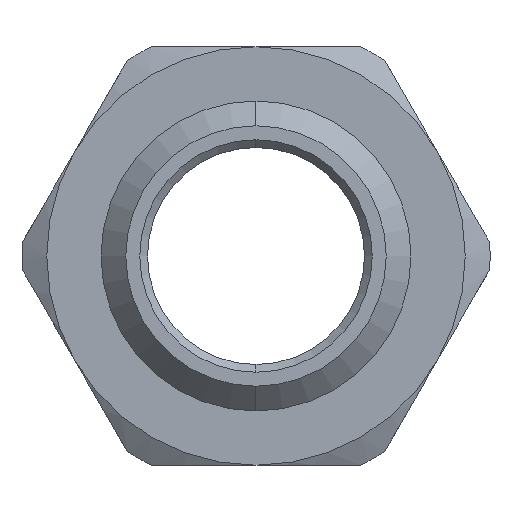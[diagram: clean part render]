
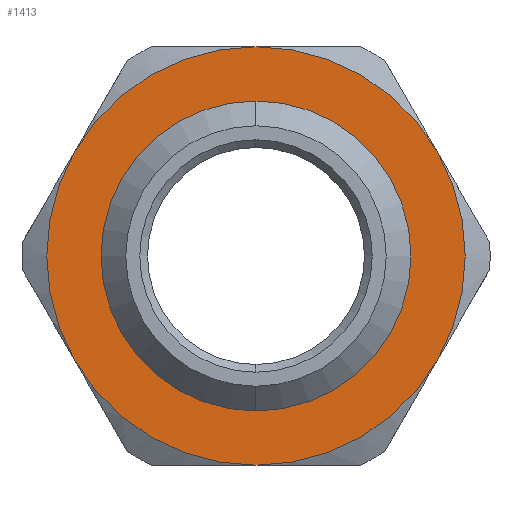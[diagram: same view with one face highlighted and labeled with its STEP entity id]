
A CAD part, left-side view. The second image highlights one B-rep face of the part: STEP entity #1413.
In plain terms, the highlighted planar face has unit normal (-1, 0, 0).
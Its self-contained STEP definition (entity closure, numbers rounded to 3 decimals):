
#160 = EDGE_LOOP ( 'NONE', ( #1654, #1558 ) ) ;
#164 = EDGE_LOOP ( 'NONE', ( #1554, #1559, #1549, #1562, #1564, #1557 ) ) ;
#187 = CIRCLE ( 'NONE', #362, 13.5 ) ;
#249 = CIRCLE ( 'NONE', #331, 9.55 ) ;
#258 = CIRCLE ( 'NONE', #328, 13.5 ) ;
#259 = CIRCLE ( 'NONE', #327, 13.5 ) ;
#267 = CIRCLE ( 'NONE', #322, 13.5 ) ;
#270 = CIRCLE ( 'NONE', #320, 13.5 ) ;
#281 = CIRCLE ( 'NONE', #312, 13.5 ) ;
#312 = AXIS2_PLACEMENT_3D ( 'NONE', #902, #901, #900 ) ;
#320 = AXIS2_PLACEMENT_3D ( 'NONE', #936, #935, #934 ) ;
#322 = AXIS2_PLACEMENT_3D ( 'NONE', #952, #950, #949 ) ;
#327 = AXIS2_PLACEMENT_3D ( 'NONE', #966, #965, #964 ) ;
#328 = AXIS2_PLACEMENT_3D ( 'NONE', #975, #973, #972 ) ;
#331 = AXIS2_PLACEMENT_3D ( 'NONE', #1035, #1034, #1032 ) ;
#362 = AXIS2_PLACEMENT_3D ( 'NONE', #1677, #1676, #1675 ) ;
#375 = EDGE_CURVE ( 'NONE', #1472, #1646, #187, .T. ) ;
#430 = EDGE_CURVE ( 'NONE', #1490, #1482, #249, .T. ) ;
#436 = EDGE_CURVE ( 'NONE', #1484, #1472, #258, .T. ) ;
#439 = EDGE_CURVE ( 'NONE', #1475, #1484, #259, .T. ) ;
#442 = EDGE_CURVE ( 'NONE', #1476, #1475, #267, .T. ) ;
#444 = EDGE_CURVE ( 'NONE', #1646, #1458, #270, .T. ) ;
#452 = EDGE_CURVE ( 'NONE', #1458, #1476, #281, .T. ) ;
#501 = AXIS2_PLACEMENT_3D ( 'NONE', #675, #668, #667 ) ;
#538 = AXIS2_PLACEMENT_3D ( 'NONE', #1159, #1156, #1154 ) ;
#667 = DIRECTION ( 'NONE',  ( 0., 0., -1. ) ) ;
#668 = DIRECTION ( 'NONE',  ( 1., 0., 0. ) ) ;
#670 = PLANE ( 'NONE',  #501 ) ;
#675 = CARTESIAN_POINT ( 'NONE',  ( -24., 20.588, 0. ) ) ;
#900 = DIRECTION ( 'NONE',  ( 0., 0., -1. ) ) ;
#901 = DIRECTION ( 'NONE',  ( 1., 0., 0. ) ) ;
#902 = CARTESIAN_POINT ( 'NONE',  ( -24., 0., 0. ) ) ;
#934 = DIRECTION ( 'NONE',  ( 0., 0., -1. ) ) ;
#935 = DIRECTION ( 'NONE',  ( 1., 0., 0. ) ) ;
#936 = CARTESIAN_POINT ( 'NONE',  ( -24., 0., 0. ) ) ;
#949 = DIRECTION ( 'NONE',  ( 0., 0., -1. ) ) ;
#950 = DIRECTION ( 'NONE',  ( 1., 0., 0. ) ) ;
#952 = CARTESIAN_POINT ( 'NONE',  ( -24., 0., 0. ) ) ;
#964 = DIRECTION ( 'NONE',  ( 0., 0., -1. ) ) ;
#965 = DIRECTION ( 'NONE',  ( 1., 0., 0. ) ) ;
#966 = CARTESIAN_POINT ( 'NONE',  ( -24., 0., 0. ) ) ;
#972 = DIRECTION ( 'NONE',  ( 0., 0., -1. ) ) ;
#973 = DIRECTION ( 'NONE',  ( 1., 0., 0. ) ) ;
#975 = CARTESIAN_POINT ( 'NONE',  ( -24., 0., 0. ) ) ;
#985 = CARTESIAN_POINT ( 'NONE',  ( -24., 0., 9.55 ) ) ;
#1019 = CARTESIAN_POINT ( 'NONE',  ( -24., 11.691, 6.75 ) ) ;
#1029 = CARTESIAN_POINT ( 'NONE',  ( -24., 11.691, -6.75 ) ) ;
#1032 = DIRECTION ( 'NONE',  ( 0., 0., -1. ) ) ;
#1034 = DIRECTION ( 'NONE',  ( 1., 0., 0. ) ) ;
#1035 = CARTESIAN_POINT ( 'NONE',  ( -24., 0., 0. ) ) ;
#1043 = CARTESIAN_POINT ( 'NONE',  ( -24., -11.691, -6.75 ) ) ;
#1053 = CARTESIAN_POINT ( 'NONE',  ( -24., -11.691, 6.75 ) ) ;
#1082 = CARTESIAN_POINT ( 'NONE',  ( -24., 0., -13.5 ) ) ;
#1096 = CARTESIAN_POINT ( 'NONE',  ( -24., 0., -9.55 ) ) ;
#1108 = CARTESIAN_POINT ( 'NONE',  ( -24., 0., 13.5 ) ) ;
#1154 = DIRECTION ( 'NONE',  ( 0., 0., -1. ) ) ;
#1156 = DIRECTION ( 'NONE',  ( 1., 0., 0. ) ) ;
#1159 = CARTESIAN_POINT ( 'NONE',  ( -24., 0., 0. ) ) ;
#1249 = FACE_BOUND ( 'NONE', #160, .T. ) ;
#1269 = FACE_OUTER_BOUND ( 'NONE', #164, .T. ) ;
#1329 = CIRCLE ( 'NONE', #538, 9.55 ) ;
#1413 = ADVANCED_FACE ( 'NONE', ( #1249, #1269 ), #670, .F. ) ;
#1458 = VERTEX_POINT ( 'NONE', #1108 ) ;
#1472 = VERTEX_POINT ( 'NONE', #1029 ) ;
#1475 = VERTEX_POINT ( 'NONE', #1043 ) ;
#1476 = VERTEX_POINT ( 'NONE', #1053 ) ;
#1482 = VERTEX_POINT ( 'NONE', #985 ) ;
#1484 = VERTEX_POINT ( 'NONE', #1082 ) ;
#1490 = VERTEX_POINT ( 'NONE', #1096 ) ;
#1549 = ORIENTED_EDGE ( 'NONE', *, *, #442, .F. ) ;
#1554 = ORIENTED_EDGE ( 'NONE', *, *, #436, .F. ) ;
#1557 = ORIENTED_EDGE ( 'NONE', *, *, #375, .F. ) ;
#1558 = ORIENTED_EDGE ( 'NONE', *, *, #1772, .T. ) ;
#1559 = ORIENTED_EDGE ( 'NONE', *, *, #439, .F. ) ;
#1562 = ORIENTED_EDGE ( 'NONE', *, *, #452, .F. ) ;
#1564 = ORIENTED_EDGE ( 'NONE', *, *, #444, .F. ) ;
#1646 = VERTEX_POINT ( 'NONE', #1019 ) ;
#1654 = ORIENTED_EDGE ( 'NONE', *, *, #430, .T. ) ;
#1675 = DIRECTION ( 'NONE',  ( 0., 0., -1. ) ) ;
#1676 = DIRECTION ( 'NONE',  ( 1., 0., 0. ) ) ;
#1677 = CARTESIAN_POINT ( 'NONE',  ( -24., 0., 0. ) ) ;
#1772 = EDGE_CURVE ( 'NONE', #1482, #1490, #1329, .T. ) ;
